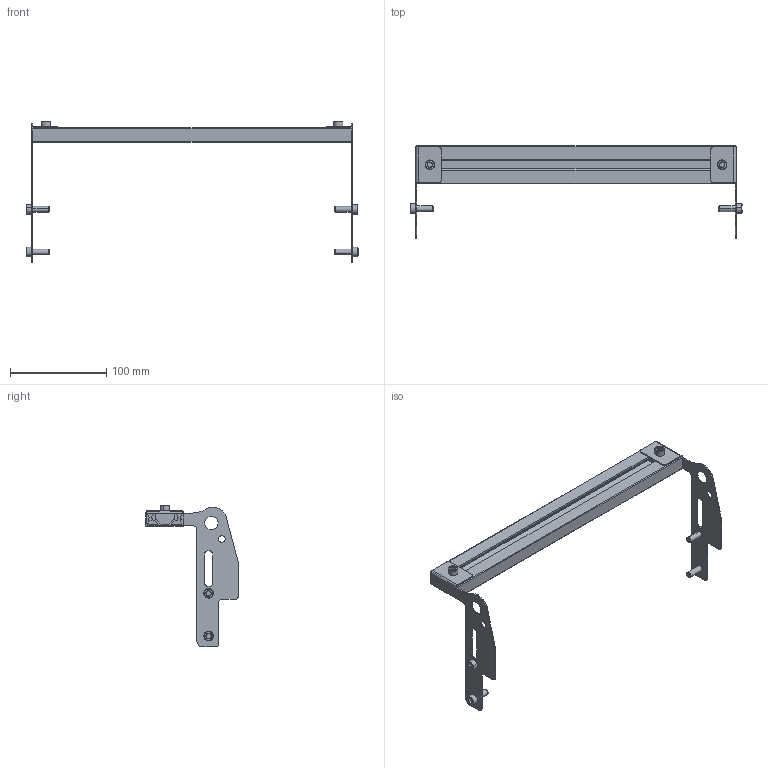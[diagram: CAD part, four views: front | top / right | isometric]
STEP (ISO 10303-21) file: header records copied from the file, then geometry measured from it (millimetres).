
FILE_DESCRIPTION (( 'STEP AP203' ), '1' );
FILE_NAME ('207215-12.STEP', '2017-01-05T18:43:48', ( '' ), ( '' ), 'SwSTEP 2.0', 'SolidWorks 2015', '' );
FILE_SCHEMA (( 'CONFIG_CONTROL_DESIGN' ));
Length unit declared in the file: inch
Products named in the file (7): 207215-12; 207132-LH; 207217-WW_207216-12; 9206XXM_920612M; 207132-RH; 834-FASN-M6; 9206XXM_920618M
Assembly tree (11 placements, depth 2):
  207215-12
    207217-WW_207216-12
    834-FASN-M6  x2
    9206XXM_920612M  x2
    9206XXM_920618M  x4
    207132-RH
    207132-LH
Bounding box: 345.6 x 96.26 x 147.81 mm (x, y, z)
Volume: 114133.7 mm3; surface area: 109856.3 mm2
Topology: 11 solids, 11 shells, 342 faces, 812 edges, 504 vertices
Faces by surface type: plane 148, cylinder 128, cone 66
Entity records: 8241 total; most frequent: CARTESIAN_POINT 1368, DIRECTION 1330, ORIENTED_EDGE 1212, EDGE_CURVE 606, AXIS2_PLACEMENT_3D 490, VERTEX_POINT 388, VECTOR 350, LINE 350
